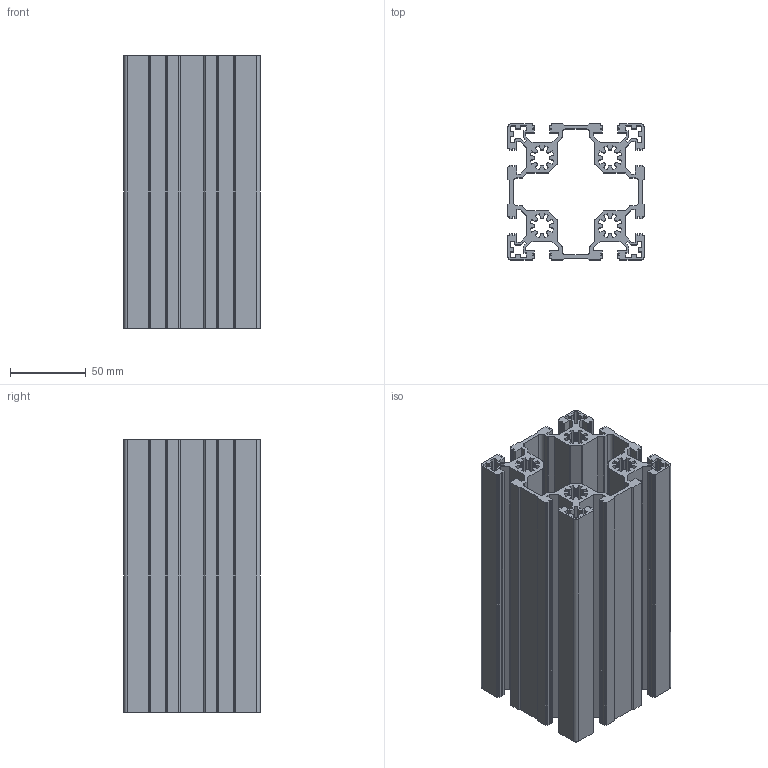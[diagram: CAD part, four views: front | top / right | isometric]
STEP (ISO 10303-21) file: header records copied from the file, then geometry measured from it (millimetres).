
FILE_DESCRIPTION((''),'2;1');
FILE_NAME('E:\catalogue and flyer\Profile catalogue 2015\profile-step file,31MAr16\PS9090-10.stp','2016-03-31T14:21:55',('h029'),(''),'Autodesk Inventor 11','Autodesk Inventor 11','');
FILE_SCHEMA(('AUTOMOTIVE_DESIGN { 1 0 10303 214 1 1 1 1 }'));
Length unit declared in the file: millimetre
Products named in the file (1): PS9090-10
Bounding box: 90 x 90 x 180 mm (x, y, z)
Volume: 408490.1 mm3; surface area: 287686 mm2
Topology: 1 solids, 1 shells, 642 faces, 1920 edges, 1280 vertices
Faces by surface type: plane 362, cylinder 280
Entity records: 21763 total; most frequent: CARTESIAN_POINT 3843, ORIENTED_EDGE 3840, DIRECTION 3766, EDGE_CURVE 1920, VECTOR 1360, LINE 1360, VERTEX_POINT 1280, AXIS2_PLACEMENT_3D 1203
